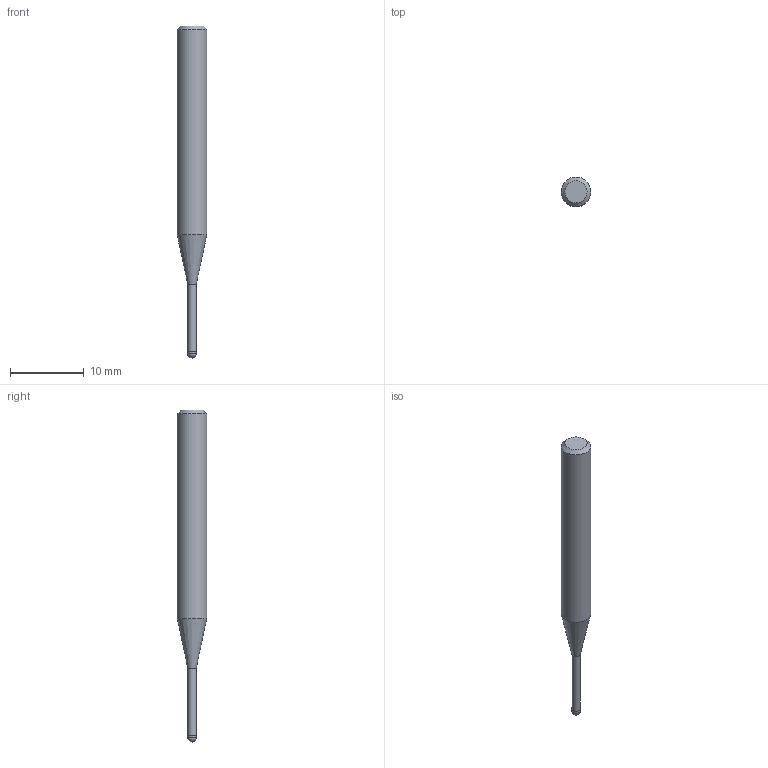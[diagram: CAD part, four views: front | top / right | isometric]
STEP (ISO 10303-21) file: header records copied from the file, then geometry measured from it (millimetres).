
FILE_DESCRIPTION((''),'2;1');
FILE_NAME('C:\Users\nsx150\AppData\Local\Temp\Mastercam 2021\3SYKECWX22\TEMP.step','2021-04-22T10:02:50',(''),(''),'STEP Write','Mastercam 2021 ... CNC Software, Inc.','');
FILE_SCHEMA(('AUTOMOTIVE_DESIGN'));
Length unit declared in the file: millimetre
Products named in the file (1): None
Bounding box: 4 x 4 x 45 mm (x, y, z)
Volume: 402.9 mm3; surface area: 458 mm2
Topology: 2 solids, 2 shells, 9 faces, 14 edges, 8 vertices
Faces by surface type: plane 3, cylinder 3, cone 2, sphere 1
Full cylindrical faces by diameter (mm): 1.15 x1, 1.2 x1, 4 x1
Entity records: 211 total; most frequent: DIRECTION 36, CARTESIAN_POINT 25, AXIS2_PLACEMENT_3D 18, ORIENTED_EDGE 14, EDGE_LOOP 14, STYLED_ITEM 12, ADVANCED_FACE 9, FACE_BOUND 8
